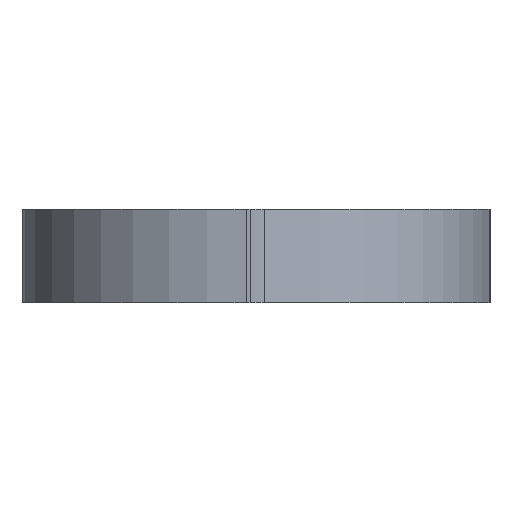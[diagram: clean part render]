
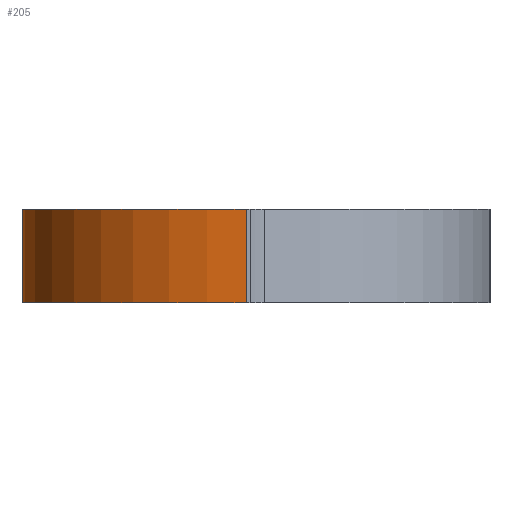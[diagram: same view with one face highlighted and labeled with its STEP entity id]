
A CAD part, left-side view. The second image highlights one B-rep face of the part: STEP entity #205.
In plain terms, the highlighted cylindrical face has radius 25 mm (diameter 50 mm), a partial arc.
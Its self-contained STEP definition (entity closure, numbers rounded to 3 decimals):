
#4 = DIRECTION ( 'NONE',  ( 0., 0., -1. ) ) ;
#17 = VERTEX_POINT ( 'NONE', #548 ) ;
#68 = CARTESIAN_POINT ( 'NONE',  ( -374.978, -23.944, 10. ) ) ;
#136 = CARTESIAN_POINT ( 'NONE',  ( -350., -25., 10. ) ) ;
#138 = EDGE_LOOP ( 'NONE', ( #447, #676, #1007, #621 ) ) ;
#204 = CARTESIAN_POINT ( 'NONE',  ( -350., 0., 0. ) ) ;
#205 = ADVANCED_FACE ( 'NONE', ( #493 ), #492, .T. ) ;
#222 = VERTEX_POINT ( 'NONE', #204 ) ;
#241 = VERTEX_POINT ( 'NONE', #402 ) ;
#333 = EDGE_CURVE ( 'NONE', #222, #17, #564, .T. ) ;
#337 = VECTOR ( 'NONE', #448, 1000. ) ;
#375 = VERTEX_POINT ( 'NONE', #532 ) ;
#377 = CARTESIAN_POINT ( 'NONE',  ( -350., -25., 0. ) ) ;
#400 = DIRECTION ( 'NONE',  ( 0., 0., 1. ) ) ;
#402 = CARTESIAN_POINT ( 'NONE',  ( -350., 0., 10. ) ) ;
#443 = DIRECTION ( 'NONE',  ( 0., 0., 1. ) ) ;
#447 = ORIENTED_EDGE ( 'NONE', *, *, #333, .T. ) ;
#448 = DIRECTION ( 'NONE',  ( 0., 0., -1. ) ) ;
#477 = AXIS2_PLACEMENT_3D ( 'NONE', #377, #400, #613 ) ;
#492 = CYLINDRICAL_SURFACE ( 'NONE', #506, 25. ) ;
#493 = FACE_OUTER_BOUND ( 'NONE', #138, .T. ) ;
#506 = AXIS2_PLACEMENT_3D ( 'NONE', #1016, #4, #1036 ) ;
#513 = DIRECTION ( 'NONE',  ( 1., 0., 0. ) ) ;
#532 = CARTESIAN_POINT ( 'NONE',  ( -374.978, -23.944, 10. ) ) ;
#548 = CARTESIAN_POINT ( 'NONE',  ( -374.978, -23.944, 0. ) ) ;
#564 = CIRCLE ( 'NONE', #477, 25. ) ;
#579 = CIRCLE ( 'NONE', #884, 25. ) ;
#613 = DIRECTION ( 'NONE',  ( 1., 0., 0. ) ) ;
#621 = ORIENTED_EDGE ( 'NONE', *, *, #952, .T. ) ;
#676 = ORIENTED_EDGE ( 'NONE', *, *, #708, .T. ) ;
#692 = DIRECTION ( 'NONE',  ( 0., 0., 1. ) ) ;
#708 = EDGE_CURVE ( 'NONE', #17, #375, #762, .T. ) ;
#762 = LINE ( 'NONE', #68, #890 ) ;
#809 = EDGE_CURVE ( 'NONE', #241, #375, #579, .T. ) ;
#874 = LINE ( 'NONE', #926, #337 ) ;
#884 = AXIS2_PLACEMENT_3D ( 'NONE', #136, #443, #513 ) ;
#890 = VECTOR ( 'NONE', #692, 1000. ) ;
#926 = CARTESIAN_POINT ( 'NONE',  ( -350., 0., 10. ) ) ;
#952 = EDGE_CURVE ( 'NONE', #241, #222, #874, .T. ) ;
#1007 = ORIENTED_EDGE ( 'NONE', *, *, #809, .F. ) ;
#1016 = CARTESIAN_POINT ( 'NONE',  ( -350., -25., 10. ) ) ;
#1036 = DIRECTION ( 'NONE',  ( -1., 0., 0. ) ) ;
